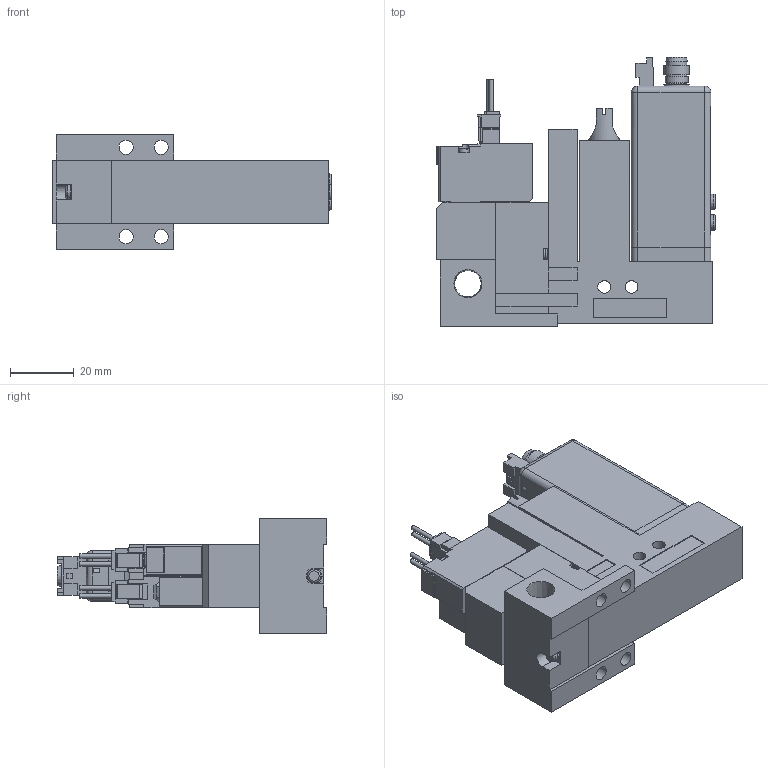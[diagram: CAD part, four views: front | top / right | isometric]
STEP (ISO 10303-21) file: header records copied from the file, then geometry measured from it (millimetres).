
FILE_DESCRIPTION(('STEP AP203'),'1');
FILE_NAME('22_22PL5ALR101.stp','2025-06-05T08:35:50',(' '),(' '),'Spatial InterOp 3D',' ',' ');
FILE_SCHEMA(('CONFIG_CONTROL_DESIGN'));
Length unit declared in the file: millimetre
Products named in the file (5): BMC22M※※※※22_22PL5ALR101; Solenoid valve A; Unit L; Base MR10R; MVS-202
Assembly tree (4 placements, depth 2):
  BMC22M※※※※22_22PL5ALR101
    Solenoid valve A
    Unit L
    Base MR10R
    MVS-202
Bounding box: 87.5 x 84.6 x 36 mm (x, y, z)
Volume: 102025.4 mm3; surface area: 32062.1 mm2
Topology: 4 solids, 8 shells, 789 faces, 2058 edges, 1345 vertices
Faces by surface type: plane 660, cylinder 101, cone 18, torus 6, sphere 4
Full cylindrical faces by diameter (mm): 1 x4, 1.4 x4, 1.5 x1, 2.5 x1, 3 x4, 3.5 x4, 3.6 x1, 4 x2, 4.134 x1, 4.5 x8, 4.8 x3, 5 x2, 5.2 x1, 5.8 x2, 6 x2, 6.5 x3, 6.6 x1, 7 x1, 7.2 x1, 7.9 x1, 8 x2, 8.279 x1
Entity records: 23726 total; most frequent: CARTESIAN_POINT 4278, ORIENTED_EDGE 3912, DIRECTION 3792, EDGE_CURVE 1956, LINE 1674, VECTOR 1674, VERTEX_POINT 1325, AXIS2_PLACEMENT_3D 1059
